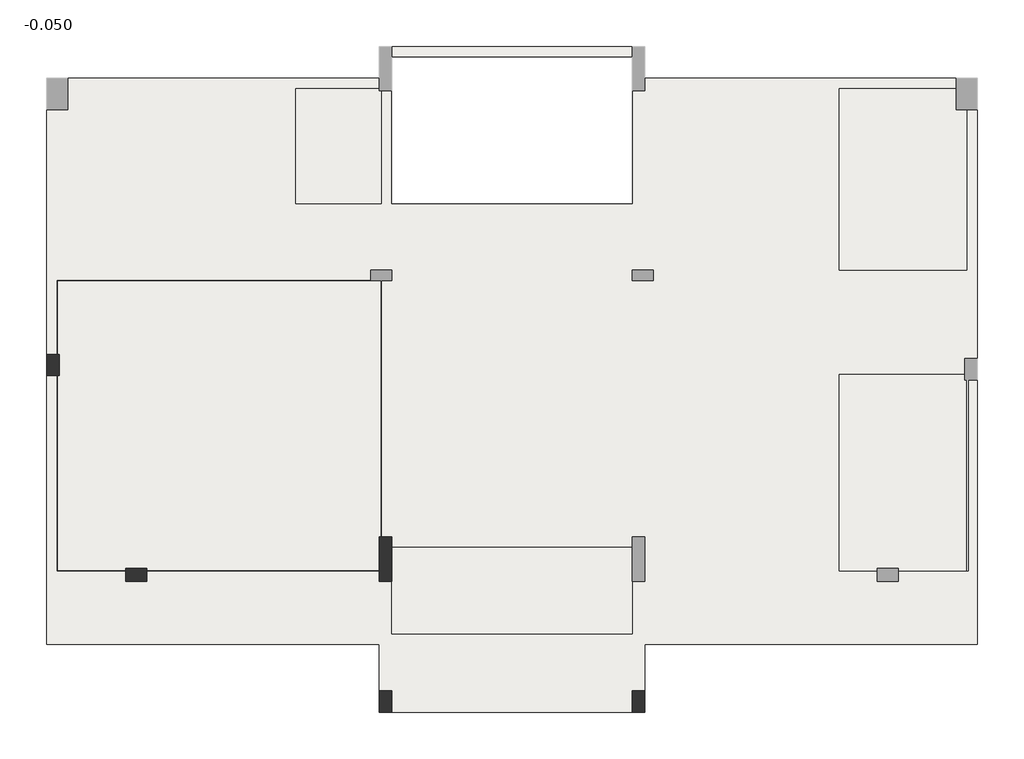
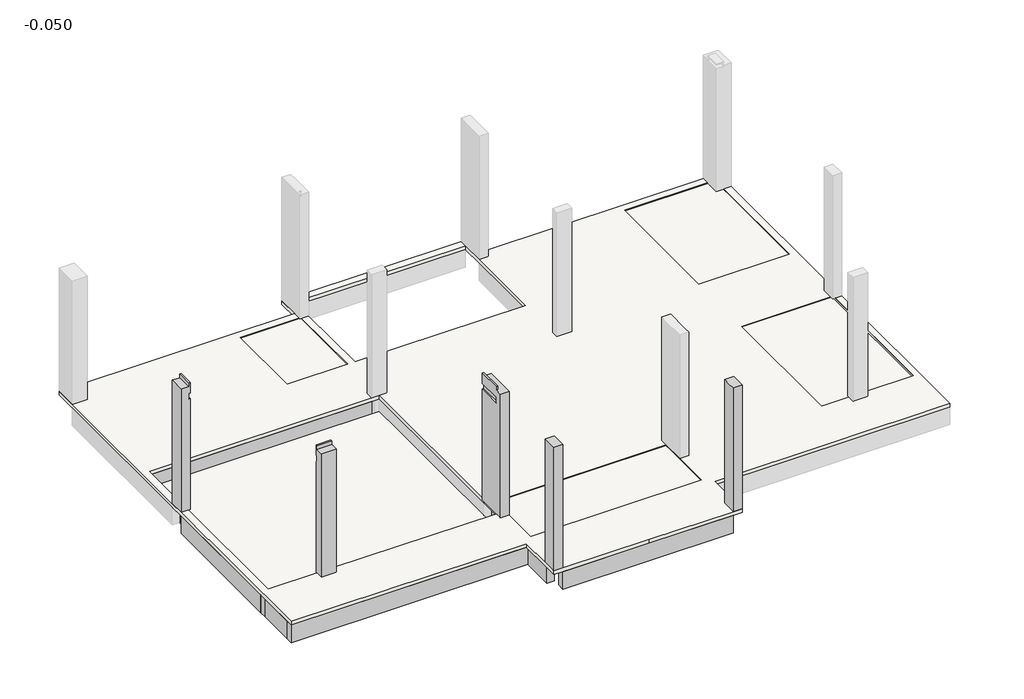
# One storey, part 1 of 2: 10 beams, 6 slabs, 5 columns.
"""IFC4 building model written with IfcOpenShell, lengths in millimetres."""

from ifc_helpers import new_model, si_unit, frame, origin, place, context, project, spatial, polyline, outline, extrude, faceted_brep, element, save

model = new_model("IFC4")

# Units and contexts
model_context = context("Model", 3, world=origin())
ifc_project = project(units=[si_unit("LENGTHUNIT", "METRE", prefix="MILLI")], contexts=[model_context])

# Site, building, storey
site = spatial("IfcSite", under=ifc_project)
building = spatial("IfcBuilding", under=site)
storey = spatial("IfcBuildingStorey", under=building, Name="-0.050", Elevation=-50.0)

# Beams
placement = place(None, origin())
element("IfcBeam", 1, ObjectType="混凝土 - 矩形梁 : KL1 200X600", at=placement, inside=storey, context=model_context, shape_type="Brep", body=[
    faceted_brep([(-13244.5197818, -993.9538269, -650.0), (-7304.5197818, -993.9538269, -650.0), (-7304.5197818, -993.9538269, -150.0), (-13244.5197818, -993.9538269, -150.0), (-13244.5197818, -993.9538269, -500.0), (-7304.5197818, -793.9538269, -650.0), (-13244.5197818, -793.9538269, -650.0), (-13244.5197818, -793.9538269, -150.0), (-8924.5197818, -793.9538269, -150.0), (-8724.5197818, -793.9538269, -150.0), (-7304.5197818, -793.9538269, -150.0)], [[[0, 1, 2, 3, 4]], [[5, 1, 0, 6]], [[5, 6, 7, 8, 9, 10]], [[1, 5, 10, 2]], [[6, 0, 4, 3, 7]], [[3, 2, 10, 9, 8, 7]]]),
])
element("IfcBeam", 2, ObjectType="混凝土 - 矩形梁 : KL1 200X600", at=placement, inside=storey, context=model_context, shape_type="Brep", body=[
    faceted_brep([(-11544.5197818, -6693.9538269, -650.0), (-7144.5197818, -6693.9538269, -650.0), (-7144.5197818, -6693.9538269, -150.0), (-11544.5197818, -6693.9538269, -150.0), (-7144.5197818, -6493.9538269, -650.0), (-11544.5197818, -6493.9538269, -650.0), (-11544.5197818, -6493.9538269, -500.0), (-11544.5197818, -6493.9538269, -150.0), (-7144.5197818, -6493.9538269, -150.0)], [[[0, 1, 2, 3]], [[4, 1, 0, 5]], [[4, 5, 6, 7, 8]], [[1, 4, 8, 2]], [[5, 0, 3, 7, 6]], [[3, 2, 8, 7]]]),
    faceted_brep([(-13444.5197818, -6493.9538269, -650.0), (-13444.5197818, -6693.9538269, -650.0), (-13444.5197818, -6693.9538269, -150.0), (-13444.5197818, -6493.9538269, -150.0), (-11944.5197818, -6693.9538269, -650.0), (-11944.5197818, -6493.9538269, -650.0), (-11944.5197818, -6493.9538269, -500.0), (-11944.5197818, -6493.9538269, -150.0), (-11944.5197818, -6693.9538269, -150.0), (-13244.5197818, -6693.9538269, -650.0), (-13244.5197818, -6693.9538269, -150.0), (-13244.5197818, -6493.9538269, -650.0), (-13244.5197818, -6493.9538269, -150.0)], [[[0, 1, 2, 3]], [[4, 5, 6, 7, 8]], [[1, 9, 4, 8, 10, 2]], [[1, 0, 11, 5, 4, 9]], [[5, 11, 0, 3, 12, 7, 6]], [[3, 2, 10, 8, 7, 12]]]),
])
element("IfcBeam", 3, ObjectType="混凝土 - 矩形梁 : KL1 200X600", at=placement, inside=storey, context=model_context, shape_type="Brep", body=[
    faceted_brep([(-6904.5197818, -6053.9538269, -650.0), (-2344.5197818, -6053.9538269, -650.0), (-2344.5197818, -6053.9538269, -170.0), (-2344.5197818, -6053.9538269, -150.0), (-6904.5197818, -6053.9538269, -150.0), (-6904.5197818, -6053.9538269, -170.0), (-6904.5197818, -5853.9538269, -650.0), (-2344.5197818, -5853.9538269, -650.0), (-6904.5197818, -5853.9538269, -150.0), (-2344.5197818, -5853.9538269, -150.0)], [[[0, 1, 2, 3, 4, 5]], [[0, 6, 7, 1]], [[7, 6, 8, 9]], [[6, 0, 5, 4, 8]], [[1, 7, 9, 3, 2]], [[4, 3, 9, 8]]]),
])
element("IfcBeam", 4, ObjectType="混凝土 - 矩形梁 : KL1 200X600", at=placement, inside=storey, context=model_context, shape_type="Brep", body=[
    faceted_brep([(-13444.5197818, -7893.9538269, -650.0), (-7104.5197818, -7893.9538269, -650.0), (-7104.5197818, -7893.9538269, -150.0), (-7144.5197818, -7893.9538269, -150.0), (-13444.5197818, -7893.9538269, -150.0), (-13444.5197818, -7693.9538269, -650.0), (-13244.5197818, -7693.9538269, -650.0), (-7104.5197818, -7693.9538269, -650.0), (-13444.5197818, -7693.9538269, -150.0), (-13244.5197818, -7693.9538269, -150.0), (-11944.5197818, -7693.9538269, -150.0), (-11744.5197818, -7693.9538269, -150.0), (-7104.5197818, -7693.9538269, -150.0)], [[[0, 1, 2, 3, 4]], [[0, 5, 6, 7, 1]], [[7, 6, 5, 8, 9, 10, 11, 12]], [[5, 0, 4, 8]], [[1, 7, 12, 2]], [[4, 3, 2, 12, 11, 10, 9, 8]]]),
])
element("IfcBeam", 5, ObjectType="混凝土 - 矩形梁 : KL1 200X600", at=placement, inside=storey, context=model_context, shape_type="Brep", body=[
    faceted_brep([(-13444.5197818, -7693.9538269, -650.0), (-13444.5197818, -7693.9538269, -150.0), (-13444.5197818, -6693.9538269, -150.0), (-13444.5197818, -6693.9538269, -650.0), (-13244.5197818, -7693.9538269, -650.0), (-13244.5197818, -6693.9538269, -650.0), (-13244.5197818, -7693.9538269, -150.0), (-13244.5197818, -6693.9538269, -150.0)], [[[0, 1, 2, 3]], [[4, 0, 3, 5]], [[6, 4, 5, 7]], [[0, 4, 6, 1]], [[1, 6, 7, 2]], [[3, 2, 7, 5]]]),
    faceted_brep([(-13244.5197818, -2793.9538269, -650.0), (-13444.5197818, -2793.9538269, -650.0), (-13444.5197818, -2793.9538269, -150.0), (-13244.5197818, -2793.9538269, -150.0), (-13444.5197818, -6493.9538269, -150.0), (-13444.5197818, -6493.9538269, -650.0), (-13244.5197818, -6493.9538269, -650.0), (-13244.5197818, -6493.9538269, -500.0), (-13244.5197818, -6493.9538269, -150.0)], [[[0, 1, 2, 3]], [[4, 5, 6, 7, 8]], [[2, 1, 5, 4]], [[1, 0, 6, 5]], [[0, 3, 8, 7, 6]], [[8, 3, 2, 4]]]),
])
element("IfcBeam", 6, ObjectType="混凝土 - 矩形梁 : KL1 200X600", at=placement, inside=storey, context=model_context, shape_type="Brep", body=[
    faceted_brep([(-7104.5197818, -6693.9538269, -650.0), (-7104.5197818, -7693.9538269, -650.0), (-7104.5197818, -7893.9538269, -650.0), (-7104.5197818, -8773.9538269, -650.0), (-7104.5197818, -8773.9538269, -150.0), (-7104.5197818, -7893.9538269, -150.0), (-7104.5197818, -7693.9538269, -150.0), (-7104.5197818, -6693.9538269, -150.0), (-6904.5197818, -6693.9538269, -650.0), (-6904.5197818, -8773.9538269, -650.0), (-6904.5197818, -6693.9538269, -150.0), (-6904.5197818, -7693.9538269, -150.0), (-6904.5197818, -7893.9538269, -150.0), (-6904.5197818, -8773.9538269, -150.0)], [[[0, 1, 2, 3, 4, 5, 6, 7]], [[0, 8, 9, 3, 2, 1]], [[9, 8, 10, 11, 12, 13]], [[8, 0, 7, 10]], [[3, 9, 13, 4]], [[7, 6, 5, 4, 13, 12, 11, 10]]]),
])
element("IfcBeam", 7, ObjectType="混凝土 - 矩形梁 : KL1 200X600", at=placement, inside=storey, context=model_context, shape_type="Brep", body=[
    faceted_brep([(-2144.5197818, -8773.9538269, -650.0), (-2144.5197818, -7893.9538269, -650.0), (-2144.5197818, -7693.9538269, -650.0), (-2144.5197818, -6693.9538269, -650.0), (-2144.5197818, -6693.9538269, -150.0), (-2144.5197818, -7693.9538269, -150.0), (-2144.5197818, -7893.9538269, -150.0), (-2144.5197818, -8773.9538269, -150.0), (-2344.5197818, -6693.9538269, -650.0), (-2344.5197818, -8773.9538269, -650.0), (-2344.5197818, -8773.9538269, -150.0), (-2344.5197818, -7893.9538269, -150.0), (-2344.5197818, -7693.9538269, -150.0), (-2344.5197818, -6693.9538269, -150.0)], [[[0, 1, 2, 3, 4, 5, 6, 7]], [[8, 3, 2, 1, 0, 9]], [[8, 9, 10, 11, 12, 13]], [[3, 8, 13, 4]], [[9, 0, 7, 10]], [[7, 6, 5, 4, 13, 12, 11, 10]]]),
])
element("IfcBeam", 8, ObjectType="混凝土 - 矩形梁 : KL1 200X600", at=placement, inside=storey, context=model_context, shape_type="Brep", body=[
    faceted_brep([(-6904.5197818, -9173.9538269, -650.0), (-2344.5197818, -9173.9538269, -650.0), (-2344.5197818, -9173.9538269, -150.0), (-4597.8247493, -9173.9538269, -150.0), (-6904.5197818, -9173.9538269, -150.0), (-6904.5197818, -8973.9538269, -650.0), (-2344.5197818, -8973.9538269, -650.0), (-6904.5197818, -8973.9538269, -150.0), (-2344.5197818, -8973.9538269, -150.0)], [[[0, 1, 2, 3, 4]], [[0, 5, 6, 1]], [[6, 5, 7, 8]], [[5, 0, 4, 7]], [[1, 6, 8, 2]], [[4, 3, 2, 8, 7]]]),
])
element("IfcBeam", 9, ObjectType="混凝土 - 矩形梁 : KL2 200X350", at=placement, inside=storey, context=model_context, shape_type="Brep", body=[
    faceted_brep([(-6904.5197818, -7893.9538269, -400.0), (-2344.5197818, -7893.9538269, -400.0), (-2344.5197818, -7893.9538269, -150.0), (-6904.5197818, -7893.9538269, -150.0), (-6904.5197818, -7693.9538269, -400.0), (-2344.5197818, -7693.9538269, -400.0), (-6904.5197818, -7693.9538269, -170.0), (-6904.5197818, -7693.9538269, -150.0), (-2344.5197818, -7693.9538269, -150.0), (-2344.5197818, -7693.9538269, -170.0)], [[[0, 1, 2, 3]], [[0, 4, 5, 1]], [[5, 4, 6, 7, 8, 9]], [[4, 0, 3, 7, 6]], [[1, 5, 9, 8, 2]], [[3, 2, 8, 7]]]),
])
element("IfcBeam", 10, ObjectType="混凝土 - 矩形梁 : KL2 200X350", at=placement, inside=storey, context=model_context, shape_type="SweptSolid", body=[
    extrude(outline(polyline([(-11944.5197818, -6693.9538269), (-11744.5197818, -6693.9538269), (-11744.5197818, -7693.9538269), (-11944.5197818, -7693.9538269), (-11944.5197818, -6693.9538269)])), frame((0.0, 0.0, -400.0), z_axis=(0.0, 0.0, 1.0), x_axis=(1.0, 0.0, 0.0)), (0.0, 0.0, 1.0), 250.0),
])

# Columns
element("IfcColumn", 11, ObjectType="混凝土 - 矩形 - 柱 : KZ2  240X400", at=placement, inside=storey, context=model_context, shape_type="Brep", body=[
    faceted_brep([(-13204.5197818, -2393.9538269, -50.0), (-13204.5197818, -2793.9538269, -50.0), (-13444.5197818, -2793.9538269, -50.0), (-13444.5197818, -2393.9538269, -50.0), (-13204.5197818, -2393.9538269, 3550.0), (-13204.5197818, -2793.9538269, 3550.0), (-13204.5197818, -2793.9538269, 3250.0), (-13204.5197818, -2393.9538269, 3250.0), (-13204.5197818, -2793.9538269, 3090.0), (-13244.5197818, -2793.9538269, 3090.0), (-13244.5197818, -2793.9538269, 3250.0), (-13244.5197818, -2793.9538269, 3550.0), (-13244.5197818, -2793.9538269, 3450.0), (-13444.5197818, -2793.9538269, 3450.0), (-13444.5197818, -2793.9538269, 2950.0), (-13444.5197818, -2393.9538269, 3450.0), (-13444.5197818, -2393.9538269, 3400.0), (-13444.5197818, -2393.9538269, 2950.0), (-13244.5197818, -2393.9538269, 3450.0), (-13244.5197818, -2393.9538269, 3550.0), (-13244.5197818, -2393.9538269, 3250.0), (-13244.5197818, -2393.9538269, 3090.0), (-13204.5197818, -2393.9538269, 3090.0)], [[[0, 1, 2, 3]], [[4, 5, 6, 7]], [[2, 1, 8, 9, 10, 6, 5, 11, 12, 13, 14]], [[3, 2, 14, 13, 15, 16, 17]], [[0, 3, 17, 16, 15, 18, 19, 4, 7, 20, 21, 22]], [[5, 4, 19, 11]], [[12, 18, 15, 13]], [[18, 12, 11, 19]], [[21, 9, 8, 22]], [[10, 20, 7, 6]], [[9, 21, 20, 10]], [[1, 0, 22, 8]]]),
])
element("IfcColumn", 12, ObjectType="混凝土 - 矩形 - 柱 : KZ2  240X400", at=placement, inside=storey, context=model_context, shape_type="Brep", body=[
    faceted_brep([(-11944.5197818, -6453.9538269, -50.0), (-11544.5197818, -6453.9538269, -50.0), (-11544.5197818, -6693.9538269, -50.0), (-11944.5197818, -6693.9538269, -50.0), (-11944.5197818, -6453.9538269, 3550.0), (-11544.5197818, -6453.9538269, 3550.0), (-11544.5197818, -6453.9538269, 3250.0), (-11944.5197818, -6453.9538269, 3250.0), (-11544.5197818, -6453.9538269, 3090.0), (-11544.5197818, -6493.9538269, 3090.0), (-11544.5197818, -6493.9538269, 3250.0), (-11544.5197818, -6493.9538269, 3550.0), (-11544.5197818, -6493.9538269, 3450.0), (-11544.5197818, -6693.9538269, 3450.0), (-11544.5197818, -6693.9538269, 3420.0), (-11544.5197818, -6693.9538269, 2950.0), (-11744.5197818, -6693.9538269, 3450.0), (-11944.5197818, -6693.9538269, 3450.0), (-11944.5197818, -6693.9538269, 3200.0), (-11944.5197818, -6693.9538269, 2950.0), (-11944.5197818, -6493.9538269, 3450.0), (-11944.5197818, -6493.9538269, 3550.0), (-11944.5197818, -6493.9538269, 3250.0), (-11944.5197818, -6493.9538269, 3090.0), (-11944.5197818, -6453.9538269, 3090.0)], [[[0, 1, 2, 3]], [[4, 5, 6, 7]], [[2, 1, 8, 9, 10, 6, 5, 11, 12, 13, 14, 15]], [[3, 2, 15, 14, 13, 16, 17, 18, 19]], [[0, 3, 19, 18, 17, 20, 21, 4, 7, 22, 23, 24]], [[5, 4, 21, 11]], [[12, 20, 17, 16, 13]], [[20, 12, 11, 21]], [[23, 9, 8, 24]], [[10, 22, 7, 6]], [[9, 23, 22, 10]], [[1, 0, 24, 8]]]),
])
element("IfcColumn", 13, ObjectType="混凝土 - 矩形 - 柱 : KZ2  240X400", at=placement, inside=storey, context=model_context, shape_type="Brep", body=[
    faceted_brep([(-6904.5197818, -8773.9538269, -50.0), (-6904.5197818, -9173.9538269, -50.0), (-7144.5197818, -9173.9538269, -50.0), (-7144.5197818, -8773.9538269, -50.0), (-6904.5197818, -8773.9538269, 2950.0), (-6904.5197818, -8773.9538269, 3450.0), (-6904.5197818, -8973.9538269, 3450.0), (-6904.5197818, -9173.9538269, 3450.0), (-6904.5197818, -9173.9538269, 2950.0), (-7144.5197818, -9173.9538269, 3450.0), (-7144.5197818, -8773.9538269, 3450.0), (-7104.5197818, -8773.9538269, 3450.0)], [[[0, 1, 2, 3]], [[1, 0, 4, 5, 6, 7, 8]], [[2, 1, 8, 7, 9]], [[3, 2, 9, 10]], [[0, 3, 10, 11, 5, 4]], [[7, 6, 5, 11, 10, 9]]]),
])
element("IfcColumn", 14, ObjectType="混凝土 - 矩形 - 柱 : KZ2  240X400", at=placement, inside=storey, context=model_context, shape_type="Brep", body=[
    faceted_brep([(-2344.5197818, -8773.9538269, -50.0), (-2104.5197818, -8773.9538269, -50.0), (-2104.5197818, -9173.9538269, -50.0), (-2344.5197818, -9173.9538269, -50.0), (-2344.5197818, -9173.9538269, 2950.0), (-2344.5197818, -9173.9538269, 3450.0), (-2344.5197818, -8973.9538269, 3450.0), (-2344.5197818, -8773.9538269, 3450.0), (-2344.5197818, -8773.9538269, 2950.0), (-2104.5197818, -9173.9538269, 3450.0), (-2104.5197818, -8773.9538269, 3450.0), (-2144.5197818, -8773.9538269, 3450.0)], [[[0, 1, 2, 3]], [[0, 3, 4, 5, 6, 7, 8]], [[3, 2, 9, 5, 4]], [[2, 1, 10, 9]], [[1, 0, 8, 7, 11, 10]], [[7, 6, 5, 9, 10, 11]]]),
])
element("IfcColumn", 15, ObjectType="混凝土 - 矩形 - 柱 : KZ4 240X840", at=placement, inside=storey, context=model_context, shape_type="Brep", body=[
    faceted_brep([(-7144.5197818, -6693.9538269, -50.0), (-7144.5197818, -5853.9538269, -50.0), (-6904.5197818, -5853.9538269, -50.0), (-6904.5197818, -6053.9538269, -50.0), (-6904.5197818, -6693.9538269, -50.0), (-7144.5197818, -6693.9538269, 2950.0), (-7144.5197818, -6693.9538269, 3420.0), (-7144.5197818, -6693.9538269, 3450.0), (-7144.5197818, -6493.9538269, 3450.0), (-7144.5197818, -6493.9538269, 3550.0), (-7144.5197818, -5853.9538269, 3550.0), (-7144.5197818, -5853.9538269, 3250.0), (-7144.5197818, -6493.9538269, 3250.0), (-7144.5197818, -6493.9538269, 3090.0), (-7144.5197818, -5853.9538269, 3090.0), (-7104.5197818, -5853.9538269, 3090.0), (-7104.5197818, -5853.9538269, 3250.0), (-7104.5197818, -5853.9538269, 3550.0), (-7104.5197818, -5853.9538269, 3450.0), (-6904.5197818, -5853.9538269, 3450.0), (-6904.5197818, -5853.9538269, 2950.0), (-6904.5197818, -6053.9538269, 3450.0), (-6904.5197818, -6693.9538269, 3450.0), (-6904.5197818, -6693.9538269, 2950.0), (-7104.5197818, -6693.9538269, 3450.0), (-7104.5197818, -6493.9538269, 3550.0), (-7104.5197818, -6493.9538269, 3450.0), (-7104.5197818, -6493.9538269, 3090.0), (-7104.5197818, -6493.9538269, 3250.0)], [[[0, 1, 2, 3, 4]], [[1, 0, 5, 6, 7, 8, 9, 10, 11, 12, 13, 14]], [[2, 1, 14, 15, 16, 11, 10, 17, 18, 19, 20]], [[4, 3, 2, 20, 19, 21, 22, 23]], [[0, 4, 23, 22, 24, 7, 6, 5]], [[17, 10, 9, 25]], [[18, 26, 8, 7, 24, 22, 21, 19]], [[26, 25, 9, 8]], [[25, 26, 18, 17]], [[13, 27, 15, 14]], [[16, 28, 12, 11]], [[27, 28, 16, 15]], [[28, 27, 13, 12]]]),
])

# Slabs
element("IfcSlab", 16, ObjectType="100", at=placement, inside=storey, context=model_context, shape_type="Brep", body=[
    faceted_brep([(-7144.5197818, 2846.0461731, -150.0), (-7144.5197818, 3446.0461731, -150.0), (-6904.5197818, 3446.0461731, -150.0), (-2344.5197818, 3446.0461731, -150.0), (-2104.5197818, 3446.0461731, -150.0), (-2104.5197818, 2846.0461731, -150.0), (3795.4802182, 2846.0461731, -150.0), (4195.4802182, 2846.0461731, -150.0), (4195.4802182, 2246.0461731, -150.0), (4195.4802182, -2473.9538269, -150.0), (4195.4802182, -2873.9538269, -150.0), (4195.4802182, -6493.9538269, -150.0), (4195.4802182, -6693.9538269, -150.0), (4195.4802182, -7693.9538269, -150.0), (4195.4802182, -7893.9538269, -150.0), (-2104.5197818, -7893.9538269, -150.0), (-2104.5197818, -8773.9538269, -150.0), (-2104.5197818, -9173.9538269, -150.0), (-2344.5197818, -9173.9538269, -150.0), (-4597.8247493, -9173.9538269, -150.0), (-6904.5197818, -9173.9538269, -150.0), (-7144.5197818, -9173.9538269, -150.0), (-7144.5197818, -8773.9538269, -150.0), (-7144.5197818, -7893.9538269, -150.0), (-13444.5197818, -7893.9538269, -150.0), (-13444.5197818, -7693.9538269, -150.0), (-13444.5197818, -6693.9538269, -150.0), (-13444.5197818, -6493.9538269, -150.0), (-13444.5197818, -2793.9538269, -150.0), (-13444.5197818, -2393.9538269, -150.0), (-13444.5197818, 2246.0461731, -150.0), (-13444.5197818, 2846.0461731, -150.0), (-13044.5197818, 2846.0461731, -150.0), (-7104.5197818, -993.9538269, -150.0), (-7304.5197818, -993.9538269, -150.0), (-13244.5197818, -993.9538269, -150.0), (-13244.5197818, -2393.9538269, -150.0), (-13244.5197818, -2793.9538269, -150.0), (-13244.5197818, -6493.9538269, -150.0), (-11944.5197818, -6493.9538269, -150.0), (-11544.5197818, -6493.9538269, -150.0), (-7144.5197818, -6493.9538269, -150.0), (-7104.5197818, -6493.9538269, -150.0), (-7104.5197818, -5853.9538269, -150.0), (4024.4802182, -2773.9538269, -150.0), (3995.4802182, -2773.9538269, -150.0), (3955.4802182, -2773.9538269, -150.0), (1575.4802182, -2773.9538269, -150.0), (1575.4802182, -6493.9538269, -150.0), (2295.4802182, -6493.9538269, -150.0), (2695.4802182, -6493.9538269, -150.0), (4024.4802182, -6493.9538269, -150.0), (4024.4802182, -2873.9538269, -150.0), (3995.4802182, 2646.0461731, -150.0), (3795.4802182, 2646.0461731, -150.0), (1575.4802182, 2646.0461731, -150.0), (1575.4802182, -793.9538269, -150.0), (3995.4802182, -793.9538269, -150.0), (3995.4802182, 2246.0461731, -150.0), (-8724.5197818, 466.0461731, -150.0), (-7104.5197818, 466.0461731, -150.0), (-7104.5197818, 2606.0461731, -150.0), (-7104.5197818, 2646.0461731, -150.0), (-7144.5197818, 2646.0461731, -150.0), (-8724.5197818, 2646.0461731, -150.0), (-2344.5197818, -6053.9538269, -150.0), (-6904.5197818, -6053.9538269, -150.0), (-6904.5197818, -6693.9538269, -150.0), (-6904.5197818, -7693.9538269, -150.0), (-2344.5197818, -7693.9538269, -150.0), (-2344.5197818, -6693.9538269, -150.0), (-2344.5197818, 466.0461731, -150.0), (-2344.5197818, 2606.0461731, -150.0), (-2344.5197818, 3246.0461731, -150.0), (-6904.5197818, 3246.0461731, -150.0), (-6904.5197818, 2606.0461731, -150.0), (-6904.5197818, 466.0461731, -150.0), (-7144.5197818, 2846.0461731, -50.0), (-13044.5197818, 2846.0461731, -50.0), (-13444.5197818, 2846.0461731, -50.0), (-13444.5197818, 2246.0461731, -50.0), (-13444.5197818, -2393.9538269, -50.0), (-13444.5197818, -2793.9538269, -50.0), (-13444.5197818, -7893.9538269, -50.0), (-7144.5197818, -7893.9538269, -50.0), (-7144.5197818, -8773.9538269, -50.0), (-7144.5197818, -9173.9538269, -50.0), (-6904.5197818, -9173.9538269, -50.0), (-4597.8247493, -9173.9538269, -50.0), (-2344.5197818, -9173.9538269, -50.0), (-2104.5197818, -9173.9538269, -50.0), (-2104.5197818, -8773.9538269, -50.0), (-2104.5197818, -7893.9538269, -50.0), (4195.4802182, -7893.9538269, -50.0), (4195.4802182, -2873.9538269, -50.0), (4195.4802182, -2473.9538269, -50.0), (4195.4802182, 2246.0461731, -50.0), (4195.4802182, 2846.0461731, -50.0), (3795.4802182, 2846.0461731, -50.0), (-2104.5197818, 2846.0461731, -50.0), (-2104.5197818, 3446.0461731, -50.0), (-2344.5197818, 3446.0461731, -50.0), (-6904.5197818, 3446.0461731, -50.0), (-7144.5197818, 3446.0461731, -50.0), (-2344.5197818, 466.0461731, -50.0), (-6904.5197818, 466.0461731, -50.0), (-6904.5197818, 2606.0461731, -50.0), (-6904.5197818, 3246.0461731, -50.0), (-2344.5197818, 3246.0461731, -50.0), (-2344.5197818, 2606.0461731, -50.0), (-8724.5197818, 466.0461731, -50.0), (-8724.5197818, 2646.0461731, -50.0), (-7144.5197818, 2646.0461731, -50.0), (-7104.5197818, 2646.0461731, -50.0), (-7104.5197818, 2606.0461731, -50.0), (-7104.5197818, 466.0461731, -50.0), (4024.4802182, -2773.9538269, -50.0), (4024.4802182, -2873.9538269, -50.0), (4024.4802182, -6493.9538269, -50.0), (3995.4802182, -6493.9538269, -50.0), (2695.4802182, -6493.9538269, -50.0), (2295.4802182, -6493.9538269, -50.0), (1575.4802182, -6493.9538269, -50.0), (1575.4802182, -2773.9538269, -50.0), (3955.4802182, -2773.9538269, -50.0), (3995.4802182, 2646.0461731, -50.0), (3995.4802182, 2246.0461731, -50.0), (3995.4802182, -793.9538269, -50.0), (1575.4802182, -793.9538269, -50.0), (1575.4802182, 2646.0461731, -50.0), (3795.4802182, 2646.0461731, -50.0), (-7104.5197818, -993.9538269, -50.0), (-7104.5197818, -5853.9538269, -50.0), (-7104.5197818, -6493.9538269, -50.0), (-7144.5197818, -6493.9538269, -50.0), (-11544.5197818, -6493.9538269, -50.0), (-11944.5197818, -6493.9538269, -50.0), (-13244.5197818, -6493.9538269, -50.0), (-13244.5197818, -2793.9538269, -50.0), (-13244.5197818, -2393.9538269, -50.0), (-13244.5197818, -993.9538269, -50.0), (-7304.5197818, -993.9538269, -50.0), (-2344.5197818, -6053.9538269, -50.0), (-2344.5197818, -6693.9538269, -50.0), (-2344.5197818, -7693.9538269, -50.0), (-6904.5197818, -7693.9538269, -50.0), (-6904.5197818, -6693.9538269, -50.0), (-6904.5197818, -6053.9538269, -50.0), (3995.4802182, 2646.0461731, -70.0)], [[[0, 1, 2, 3, 4, 5, 6, 7, 8, 9, 10, 11, 12, 13, 14, 15, 16, 17, 18, 19, 20, 21, 22, 23, 24, 25, 26, 27, 28, 29, 30, 31, 32], [33, 34, 35, 36, 37, 38, 39, 40, 41, 42, 43], [44, 45, 46, 47, 48, 49, 50, 51, 52], [53, 54, 55, 56, 57, 58], [59, 60, 61, 62, 63, 64], [65, 66, 67, 68, 69, 70], [71, 72, 73, 74, 75, 76]], [[77, 78, 79, 80, 81, 82, 83, 84, 85, 86, 87, 88, 89, 90, 91, 92, 93, 94, 95, 96, 97, 98, 99, 100, 101, 102, 103], [104, 105, 106, 107, 108, 109], [110, 111, 112, 113, 114, 115], [116, 117, 118, 119, 120, 121, 122, 123, 124], [125, 126, 127, 128, 129, 130], [131, 132, 133, 134, 135, 136, 137, 138, 139, 140, 141], [142, 143, 144, 145, 146, 147]], [[1, 0, 77, 103]], [[4, 3, 2, 1, 103, 102, 101, 100]], [[5, 4, 100, 99]], [[7, 6, 5, 99, 98, 97]], [[14, 13, 12, 11, 10, 9, 8, 7, 97, 96, 95, 94, 93]], [[15, 14, 93, 92]], [[17, 16, 15, 92, 91, 90]], [[19, 18, 17, 90, 89, 88]], [[21, 20, 19, 88, 87, 86]], [[23, 22, 21, 86, 85, 84]], [[24, 23, 84, 83]], [[31, 30, 29, 28, 27, 26, 25, 24, 83, 82, 81, 80, 79]], [[0, 32, 31, 79, 78, 77]], [[73, 72, 71, 104, 109, 108]], [[74, 73, 108, 107]], [[76, 75, 74, 107, 106, 105]], [[71, 76, 105, 104]], [[60, 59, 110, 115]], [[62, 61, 60, 115, 114, 113]], [[64, 63, 62, 113, 112, 111]], [[59, 64, 111, 110]], [[55, 54, 53, 148, 125, 130, 129]], [[56, 55, 129, 128]], [[57, 56, 128, 127]], [[53, 58, 57, 127, 126, 125, 148]], [[47, 46, 45, 44, 116, 124, 123]], [[48, 47, 123, 122]], [[51, 50, 49, 48, 122, 121, 120, 119, 118]], [[44, 52, 51, 118, 117, 116]], [[66, 65, 142, 147]], [[68, 67, 66, 147, 146, 145]], [[69, 68, 145, 144]], [[65, 70, 69, 144, 143, 142]], [[35, 34, 33, 131, 141, 140]], [[38, 37, 36, 35, 140, 139, 138, 137]], [[42, 41, 40, 39, 38, 137, 136, 135, 134, 133]], [[33, 43, 42, 133, 132, 131]]]),
])
element("IfcSlab", 17, ObjectType="100", at=placement, inside=storey, context=model_context, shape_type="SweptSolid", body=[
    extrude(outline(polyline([(-8724.5197818, 466.0461731), (-8724.5197818, 2646.0461731), (-7104.5197818, 2646.0461731), (-7104.5197818, 466.0461731), (-8724.5197818, 466.0461731)])), frame((0.0, 0.0, -170.0), z_axis=(0.0, 0.0, 1.0), x_axis=(1.0, 0.0, 0.0)), (0.0, 0.0, 1.0), 100.0),
])
element("IfcSlab", 18, ObjectType="100", at=placement, inside=storey, context=model_context, shape_type="Brep", body=[
    faceted_brep([(3995.4802182, 2646.0461731, -170.0), (3995.4802182, 2246.0461731, -170.0), (3995.4802182, -793.9538269, -170.0), (1575.4802182, -793.9538269, -170.0), (1575.4802182, 2646.0461731, -170.0), (3795.4802182, 2646.0461731, -170.0), (3995.4802182, 2646.0461731, -70.0), (3795.4802182, 2646.0461731, -70.0), (1575.4802182, 2646.0461731, -70.0), (1575.4802182, -793.9538269, -70.0), (3995.4802182, -793.9538269, -70.0), (3995.4802182, 2246.0461731, -70.0), (3995.4802182, 2646.0461731, -150.0), (3995.4802182, -793.9538269, -150.0), (1575.4802182, -793.9538269, -150.0), (1575.4802182, 2646.0461731, -150.0)], [[[0, 1, 2, 3, 4, 5]], [[6, 7, 8, 9, 10, 11]], [[2, 1, 0, 12, 6, 11, 10, 13]], [[3, 2, 13, 10, 9, 14]], [[4, 3, 14, 9, 8, 15]], [[0, 5, 4, 15, 8, 7, 6, 12]]]),
])
element("IfcSlab", 19, ObjectType="100", at=placement, inside=storey, context=model_context, shape_type="Brep", body=[
    faceted_brep([(1575.4802182, -6493.9538269, -170.0), (1575.4802182, -2773.9538269, -170.0), (3955.4802182, -2773.9538269, -170.0), (3995.4802182, -2773.9538269, -170.0), (3995.4802182, -2873.9538269, -170.0), (3995.4802182, -6493.9538269, -170.0), (2695.4802182, -6493.9538269, -170.0), (2295.4802182, -6493.9538269, -170.0), (1575.4802182, -6493.9538269, -70.0), (2295.4802182, -6493.9538269, -70.0), (2695.4802182, -6493.9538269, -70.0), (3995.4802182, -6493.9538269, -70.0), (3995.4802182, -2873.9538269, -70.0), (3995.4802182, -2773.9538269, -70.0), (3955.4802182, -2773.9538269, -70.0), (1575.4802182, -2773.9538269, -70.0), (1575.4802182, -6493.9538269, -150.0), (1575.4802182, -2773.9538269, -150.0), (3995.4802182, -2773.9538269, -150.0)], [[[0, 1, 2, 3, 4, 5, 6, 7]], [[8, 9, 10, 11, 12, 13, 14, 15]], [[1, 0, 16, 8, 15, 17]], [[3, 2, 1, 17, 15, 14, 13, 18]], [[5, 4, 3, 18, 13, 12, 11]], [[0, 7, 6, 5, 11, 10, 9, 8, 16]]]),
])
element("IfcSlab", 20, ObjectType="100", at=placement, inside=storey, context=model_context, shape_type="Brep", body=[
    faceted_brep([(-2344.5197818, -6053.9538269, -170.0), (-2344.5197818, -7693.9538269, -170.0), (-6904.5197818, -7693.9538269, -170.0), (-6904.5197818, -6053.9538269, -170.0), (-2344.5197818, -6053.9538269, -70.0), (-6904.5197818, -6053.9538269, -70.0), (-6904.5197818, -7693.9538269, -70.0), (-2344.5197818, -7693.9538269, -70.0), (-2344.5197818, -6053.9538269, -150.0), (-2344.5197818, -7693.9538269, -150.0), (-6904.5197818, -7693.9538269, -150.0), (-6904.5197818, -6053.9538269, -150.0)], [[[0, 1, 2, 3]], [[4, 5, 6, 7]], [[1, 0, 8, 4, 7, 9]], [[2, 1, 9, 7, 6, 10]], [[3, 2, 10, 6, 5, 11]], [[0, 3, 11, 5, 4, 8]]]),
])
element("IfcSlab", 21, ObjectType="160", at=placement, inside=storey, context=model_context, shape_type="Brep", body=[
    faceted_brep([(-7104.5197818, -6493.9538269, -660.0), (-7144.5197818, -6493.9538269, -660.0), (-11544.5197818, -6493.9538269, -660.0), (-11944.5197818, -6493.9538269, -660.0), (-13244.5197818, -6493.9538269, -660.0), (-13244.5197818, -2793.9538269, -660.0), (-13244.5197818, -2393.9538269, -660.0), (-13244.5197818, -993.9538269, -660.0), (-7104.5197818, -993.9538269, -660.0), (-7104.5197818, -5853.9538269, -660.0), (-7104.5197818, -6493.9538269, -500.0), (-7104.5197818, -5853.9538269, -500.0), (-7104.5197818, -993.9538269, -500.0), (-13244.5197818, -993.9538269, -500.0), (-13244.5197818, -2393.9538269, -500.0), (-13244.5197818, -2793.9538269, -500.0), (-13244.5197818, -6493.9538269, -500.0), (-11944.5197818, -6493.9538269, -500.0), (-11544.5197818, -6493.9538269, -500.0), (-7144.5197818, -6493.9538269, -500.0), (-13244.5197818, -6493.9538269, -650.0), (-13244.5197818, -993.9538269, -650.0), (-7104.5197818, -993.9538269, -650.0)], [[[0, 1, 2, 3, 4, 5, 6, 7, 8, 9]], [[10, 11, 12, 13, 14, 15, 16, 17, 18, 19]], [[4, 3, 2, 1, 0, 10, 19, 18, 17, 16, 20]], [[7, 6, 5, 4, 20, 16, 15, 14, 13, 21]], [[8, 7, 21, 13, 12, 22]], [[0, 9, 8, 22, 12, 11, 10]]]),
])

save(model, "model.ifc")
